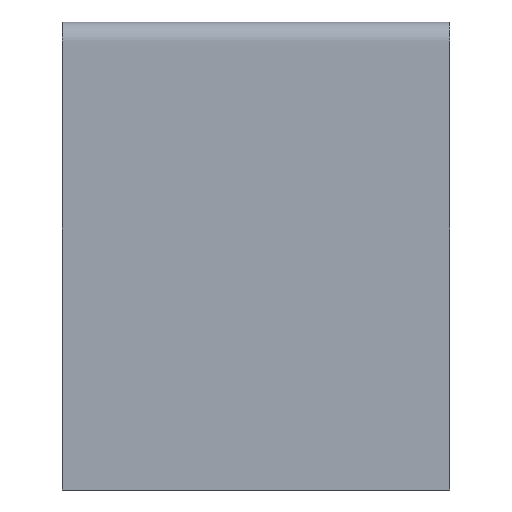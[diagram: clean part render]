
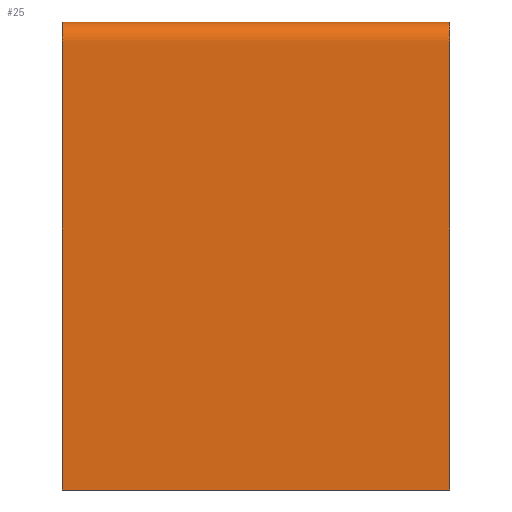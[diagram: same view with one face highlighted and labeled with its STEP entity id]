
A CAD part, left-side view. The second image highlights one B-rep face of the part: STEP entity #25.
In plain terms, the highlighted free-form (B-spline) face has degree [2, 1] with [7, 2] control points.
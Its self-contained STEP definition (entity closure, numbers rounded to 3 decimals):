
#25=ADVANCED_FACE($,(#43),#233,.T.);
#43=FACE_OUTER_BOUND($,#61,.T.);
#61=EDGE_LOOP($,(#98,#99,#100,#101));
#98=ORIENTED_EDGE($,*,*,#165,.T.);
#99=ORIENTED_EDGE($,*,*,#173,.T.);
#100=ORIENTED_EDGE($,*,*,#171,.F.);
#101=ORIENTED_EDGE($,*,*,#172,.F.);
#165=EDGE_CURVE($,#207,#206,#265,.T.);
#171=EDGE_CURVE($,#209,#211,#269,.T.);
#172=EDGE_CURVE($,#207,#209,#252,.T.);
#173=EDGE_CURVE($,#206,#211,#253,.T.);
#206=VERTEX_POINT($,#496);
#207=VERTEX_POINT($,#497);
#209=VERTEX_POINT($,#499);
#211=VERTEX_POINT($,#501);
#233=(
BOUNDED_SURFACE()
B_SPLINE_SURFACE(2,1,((#480,#481),(#482,#483),(#484,#485),(#486,#487),(#488,
#489),(#490,#491),(#492,#493)),.UNSPECIFIED.,.F.,.F.,.F.)
B_SPLINE_SURFACE_WITH_KNOTS((3,2,2,3),(2,2),(-4239.248,-3544.248,
-3497.124,-2327.124),(0.,600.),.UNSPECIFIED.)
GEOMETRIC_REPRESENTATION_ITEM()
RATIONAL_B_SPLINE_SURFACE(((1.,1.),(1.,1.),(1.,1.),(0.707,0.707),
(1.,1.),(1.,1.),(1.,1.)))
REPRESENTATION_ITEM($)
SURFACE()
);
#252=(
BOUNDED_CURVE()
B_SPLINE_CURVE(2,(#448,#449,#450,#451,#452,#453,#454),.UNSPECIFIED.,.F.,
.F.)
B_SPLINE_CURVE_WITH_KNOTS((3,2,2,3),(2327.124,3497.124,3544.248,
4239.248),.UNSPECIFIED.)
CURVE()
GEOMETRIC_REPRESENTATION_ITEM()
RATIONAL_B_SPLINE_CURVE((1.,1.,1.,0.707,1.,1.,1.))
REPRESENTATION_ITEM($)
);
#253=(
BOUNDED_CURVE()
B_SPLINE_CURVE(2,(#455,#456,#457,#458,#459,#460,#461),.UNSPECIFIED.,.F.,
.F.)
B_SPLINE_CURVE_WITH_KNOTS((3,2,2,3),(2327.124,3497.124,3544.248,
4239.248),.UNSPECIFIED.)
CURVE()
GEOMETRIC_REPRESENTATION_ITEM()
RATIONAL_B_SPLINE_CURVE((1.,1.,1.,0.707,1.,1.,1.))
REPRESENTATION_ITEM($)
);
#265=B_SPLINE_CURVE_WITH_KNOTS($,3,(#422,#423,#424,#425),.UNSPECIFIED.,.F.,
.F.,(4,4),(0.,600.),.UNSPECIFIED.);
#269=B_SPLINE_CURVE_WITH_KNOTS($,1,(#446,#447),.UNSPECIFIED.,.F.,.F.,(2,
2),(0.,600.),.UNSPECIFIED.);
#422=CARTESIAN_POINT($,(1200.,0.,725.));
#423=CARTESIAN_POINT($,(1200.,200.,725.));
#424=CARTESIAN_POINT($,(1200.,400.,725.));
#425=CARTESIAN_POINT($,(1200.,600.,725.));
#446=CARTESIAN_POINT($,(0.,0.,0.));
#447=CARTESIAN_POINT($,(0.,600.,0.));
#448=CARTESIAN_POINT($,(1200.,0.,725.));
#449=CARTESIAN_POINT($,(615.,0.,725.));
#450=CARTESIAN_POINT($,(30.,0.,725.));
#451=CARTESIAN_POINT($,(0.,0.,725.));
#452=CARTESIAN_POINT($,(0.,0.,695.));
#453=CARTESIAN_POINT($,(0.,0.,347.5));
#454=CARTESIAN_POINT($,(0.,0.,0.));
#455=CARTESIAN_POINT($,(1200.,600.,725.));
#456=CARTESIAN_POINT($,(615.,600.,725.));
#457=CARTESIAN_POINT($,(30.,600.,725.));
#458=CARTESIAN_POINT($,(0.,600.,725.));
#459=CARTESIAN_POINT($,(0.,600.,695.));
#460=CARTESIAN_POINT($,(0.,600.,347.5));
#461=CARTESIAN_POINT($,(0.,600.,0.));
#480=CARTESIAN_POINT($,(0.,0.,0.));
#481=CARTESIAN_POINT($,(0.,600.,0.));
#482=CARTESIAN_POINT($,(0.,0.,347.5));
#483=CARTESIAN_POINT($,(0.,600.,347.5));
#484=CARTESIAN_POINT($,(0.,0.,695.));
#485=CARTESIAN_POINT($,(0.,600.,695.));
#486=CARTESIAN_POINT($,(0.,0.,725.));
#487=CARTESIAN_POINT($,(0.,600.,725.));
#488=CARTESIAN_POINT($,(30.,0.,725.));
#489=CARTESIAN_POINT($,(30.,600.,725.));
#490=CARTESIAN_POINT($,(615.,0.,725.));
#491=CARTESIAN_POINT($,(615.,600.,725.));
#492=CARTESIAN_POINT($,(1200.,0.,725.));
#493=CARTESIAN_POINT($,(1200.,600.,725.));
#496=CARTESIAN_POINT($,(1200.,600.,725.));
#497=CARTESIAN_POINT($,(1200.,0.,725.));
#499=CARTESIAN_POINT($,(0.,0.,0.));
#501=CARTESIAN_POINT($,(0.,600.,0.));
